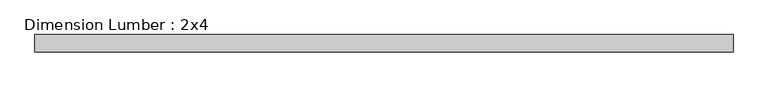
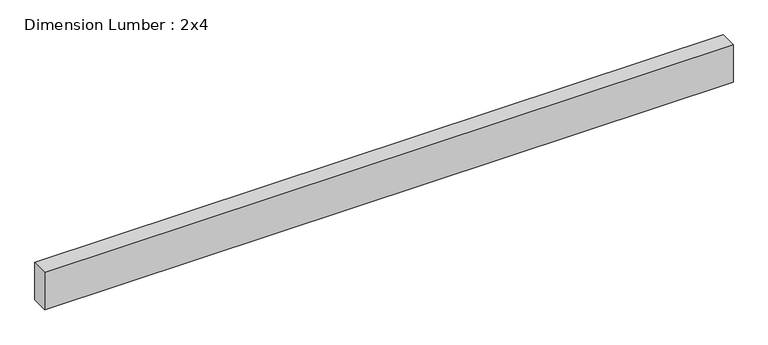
"""IFC4 building model written with IfcOpenShell, lengths in millimetres: beam geometry, Dimension Lumber : 2x4."""

from ifc_helpers import new_model, si_unit, frame, origin, place, context, project, spatial, polyline, outline, extrude, source, transform, mapped, element, save


def dimension_lumber_2x4_6003b979(model_context):
    return source(origin(), model_context, "Body", "SweptSolid", [
        extrude(outline(polyline([(769.4832734, 19.05), (769.4832734, -19.05), (-769.4832734, -19.05), (-769.4832734, 19.05), (769.4832734, 19.05)])), frame((0.0, 0.0, -44.45), z_axis=(0.0, 0.0, 1.0), x_axis=(1.0, 0.0, 0.0)), (0.0, 0.0, 1.0), 88.9),
    ])


if __name__ == "__main__":
    model = new_model("IFC4")
    model_context = context("Model", 3, world=origin())
    ifc_project = project(units=[si_unit("LENGTHUNIT", "METRE", prefix="MILLI")], contexts=[model_context])
    site = spatial("IfcSite", under=ifc_project)
    building = spatial("IfcBuilding", under=site)
    placement = place(None, origin())
    dimension_lumber_2x4_shape = dimension_lumber_2x4_6003b979(model_context)
    element("IfcBeam", 1, ObjectType="Dimension Lumber : 2x4", at=placement, inside=building, context=model_context, shape_type="MappedRepresentation", body=[
        mapped(dimension_lumber_2x4_shape, transform((0.0, 0.0, 0.0), x_axis=(1.0, 0.0, 0.0), y_axis=(0.0, 1.0, 0.0), z_axis=(0.0, 0.0, 1.0))),
    ])
    save(model, "model.ifc")
